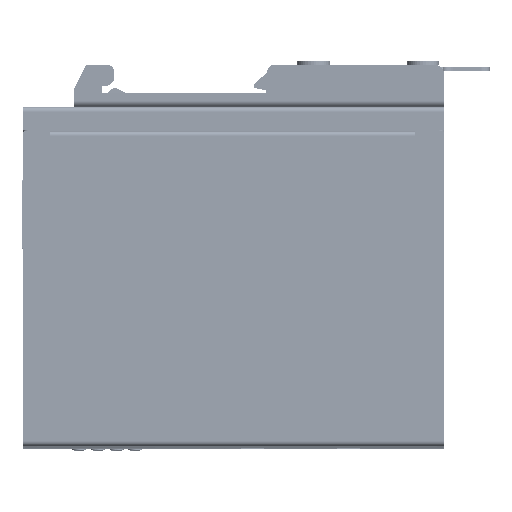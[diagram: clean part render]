
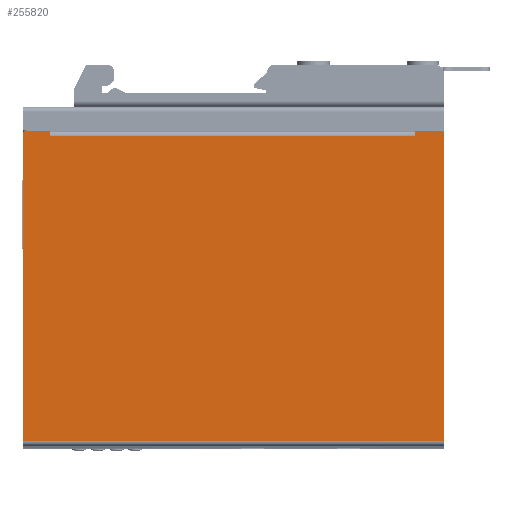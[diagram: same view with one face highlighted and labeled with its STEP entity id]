
A CAD part, left-side view. The second image highlights one B-rep face of the part: STEP entity #255820.
In plain terms, the highlighted planar face has unit normal (-1, 0, 0).
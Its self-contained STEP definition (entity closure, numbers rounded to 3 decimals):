
#253207=DIRECTION('',(0.,0.,-1.));
#253208=VECTOR('',#253207,1.023);
#253209=CARTESIAN_POINT('',(2.7,0.,2.67));
#253210=LINE('',#253209,#253208);
#253281=DIRECTION('',(0.,0.,-1.));
#253282=VECTOR('',#253281,1.023);
#253283=CARTESIAN_POINT('',(2.7,90.,2.67));
#253284=LINE('',#253283,#253282);
#253316=CARTESIAN_POINT('',(2.7,0.5,67.3));
#253317=DIRECTION('',(-1.,0.,0.));
#253318=DIRECTION('',(0.,-1.,0.));
#253319=AXIS2_PLACEMENT_3D('',#253316,#253317,#253318);
#253324=DIRECTION('',(0.,0.,-1.));
#253325=VECTOR('',#253324,64.63);
#253326=CARTESIAN_POINT('',(2.7,0.,67.3));
#253327=LINE('',#253326,#253325);
#253331=DIRECTION('',(0.,0.,1.));
#253332=VECTOR('',#253331,64.63);
#253333=CARTESIAN_POINT('',(2.7,90.,2.67));
#253334=LINE('',#253333,#253332);
#253338=CARTESIAN_POINT('',(2.7,89.5,67.3));
#253339=DIRECTION('',(-1.,0.,0.));
#253340=DIRECTION('',(0.,0.,1.));
#253341=AXIS2_PLACEMENT_3D('',#253338,#253339,#253340);
#253346=DIRECTION('',(0.,-1.,0.));
#253347=VECTOR('',#253346,5.2);
#253348=CARTESIAN_POINT('',(2.7,89.5,67.8));
#253349=LINE('',#253348,#253347);
#253353=DIRECTION('',(0.,0.,1.));
#253354=VECTOR('',#253353,1.);
#253355=CARTESIAN_POINT('',(2.7,84.3,66.8));
#253356=LINE('',#253355,#253354);
#253360=DIRECTION('',(0.,0.,1.));
#253361=VECTOR('',#253360,1.);
#253362=CARTESIAN_POINT('',(2.7,6.2,66.8));
#253363=LINE('',#253362,#253361);
#253367=DIRECTION('',(0.,-1.,0.));
#253368=VECTOR('',#253367,5.7);
#253369=CARTESIAN_POINT('',(2.7,6.2,67.8));
#253370=LINE('',#253369,#253368);
#253374=DIRECTION('',(0.,-1.,0.));
#253375=VECTOR('',#253374,90.);
#253376=CARTESIAN_POINT('',(2.7,90.,1.647));
#253377=LINE('',#253376,#253375);
#254940=DIRECTION('',(0.,-1.,0.));
#254941=VECTOR('',#254940,78.1);
#254942=CARTESIAN_POINT('',(2.7,84.3,66.8));
#254943=LINE('',#254942,#254941);
#255040=CARTESIAN_POINT('',(2.7,0.,2.67));
#255042=VERTEX_POINT('',#255040);
#255044=CARTESIAN_POINT('',(2.7,90.,2.67));
#255046=VERTEX_POINT('',#255044);
#255063=CARTESIAN_POINT('',(2.7,90.,1.647));
#255064=VERTEX_POINT('',#255063);
#255065=CARTESIAN_POINT('',(2.7,0.,1.647));
#255066=VERTEX_POINT('',#255065);
#255271=CARTESIAN_POINT('',(2.7,84.3,66.8));
#255272=CARTESIAN_POINT('',(2.7,84.3,67.8));
#255273=VERTEX_POINT('',#255271);
#255274=VERTEX_POINT('',#255272);
#255279=CARTESIAN_POINT('',(2.7,6.2,66.8));
#255280=CARTESIAN_POINT('',(2.7,6.2,67.8));
#255281=VERTEX_POINT('',#255279);
#255282=VERTEX_POINT('',#255280);
#255311=CARTESIAN_POINT('',(2.7,0.,67.3));
#255312=VERTEX_POINT('',#255311);
#255313=CARTESIAN_POINT('',(2.7,0.5,67.8));
#255314=VERTEX_POINT('',#255313);
#255319=CARTESIAN_POINT('',(2.7,89.5,67.8));
#255320=VERTEX_POINT('',#255319);
#255321=CARTESIAN_POINT('',(2.7,90.,67.3));
#255322=VERTEX_POINT('',#255321);
#255798=CARTESIAN_POINT('',(2.7,0.,0.));
#255799=DIRECTION('',(1.,0.,0.));
#255800=DIRECTION('',(0.,-1.,0.));
#255801=AXIS2_PLACEMENT_3D('',#255798,#255799,#255800);
#255802=PLANE('',#255801);
#255803=ORIENTED_EDGE('',*,*,#255650,.F.);
#255804=ORIENTED_EDGE('',*,*,#255666,.T.);
#255805=ORIENTED_EDGE('',*,*,#255679,.T.);
#255807=ORIENTED_EDGE('',*,*,#255806,.F.);
#255808=ORIENTED_EDGE('',*,*,#255737,.F.);
#255809=ORIENTED_EDGE('',*,*,#255750,.T.);
#255810=ORIENTED_EDGE('',*,*,#255765,.F.);
#255811=ORIENTED_EDGE('',*,*,#255793,.T.);
#255813=ORIENTED_EDGE('',*,*,#255812,.F.);
#255815=ORIENTED_EDGE('',*,*,#255814,.T.);
#255816=ORIENTED_EDGE('',*,*,#255606,.T.);
#255817=ORIENTED_EDGE('',*,*,#255777,.T.);
#255818=EDGE_LOOP('',(#255803,#255804,#255805,#255807,#255808,#255809,#255810,
#255811,#255813,#255815,#255816,#255817));
#255819=FACE_OUTER_BOUND('',#255818,.F.);
#253320=CIRCLE('',#253319,0.5);
#253342=CIRCLE('',#253341,0.5);
#255606=EDGE_CURVE('',#255281,#255282,#253363,.T.);
#255650=EDGE_CURVE('',#255312,#255314,#253320,.T.);
#255666=EDGE_CURVE('',#255312,#255042,#253327,.T.);
#255679=EDGE_CURVE('',#255042,#255066,#253210,.T.);
#255737=EDGE_CURVE('',#255046,#255064,#253284,.T.);
#255750=EDGE_CURVE('',#255046,#255322,#253334,.T.);
#255765=EDGE_CURVE('',#255320,#255322,#253342,.T.);
#255777=EDGE_CURVE('',#255282,#255314,#253370,.T.);
#255793=EDGE_CURVE('',#255320,#255274,#253349,.T.);
#255806=EDGE_CURVE('',#255064,#255066,#253377,.T.);
#255812=EDGE_CURVE('',#255273,#255274,#253356,.T.);
#255814=EDGE_CURVE('',#255273,#255281,#254943,.T.);
#255820=ADVANCED_FACE('',(#255819),#255802,.F.);
